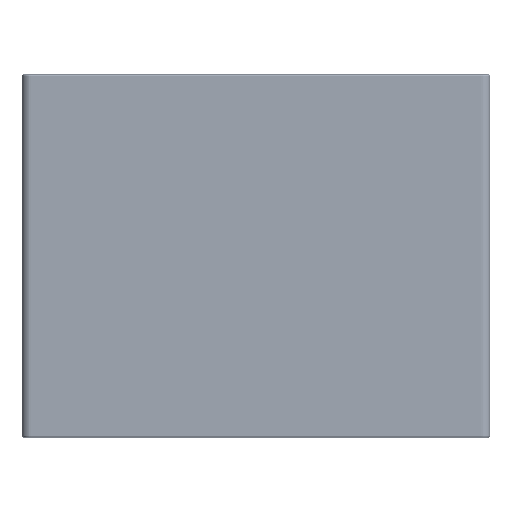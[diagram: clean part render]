
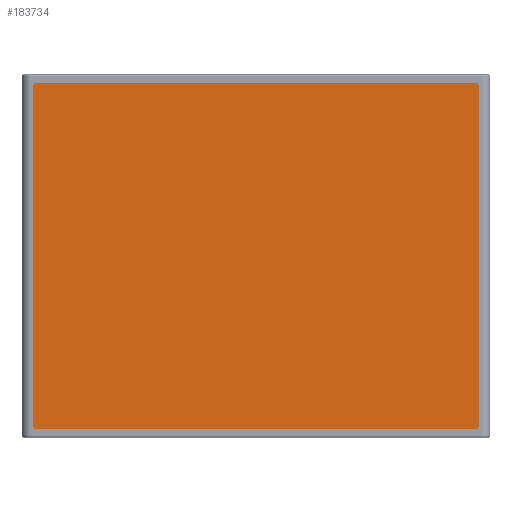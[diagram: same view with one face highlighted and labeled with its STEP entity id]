
A CAD part, front view. The second image highlights one B-rep face of the part: STEP entity #183734.
In plain terms, the highlighted planar face has unit normal (0, -1, 0).
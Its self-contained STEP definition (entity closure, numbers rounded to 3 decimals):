
#16349=DIRECTION('',(0.,0.,-1.));
#16350=VECTOR('',#16349,230.9);
#16351=CARTESIAN_POINT('',(-150.95,-1.71,115.45));
#16352=LINE('',#16351,#16350);
#16365=DIRECTION('',(-1.,0.,0.));
#16366=VECTOR('',#16365,297.9);
#16367=CARTESIAN_POINT('',(148.95,-1.71,117.45));
#16368=LINE('',#16367,#16366);
#16377=DIRECTION('',(0.,0.,1.));
#16378=VECTOR('',#16377,230.9);
#16379=CARTESIAN_POINT('',(150.95,-1.71,-115.45));
#16380=LINE('',#16379,#16378);
#16389=DIRECTION('',(1.,0.,0.));
#16390=VECTOR('',#16389,297.9);
#16391=CARTESIAN_POINT('',(-148.95,-1.71,-117.45));
#16392=LINE('',#16391,#16390);
#16397=CARTESIAN_POINT('',(-150.95,-1.71,115.45));
#16398=CARTESIAN_POINT('',(-150.95,-1.71,115.96));
#16399=CARTESIAN_POINT('',(-150.523,-1.71,117.023));
#16400=CARTESIAN_POINT('',(-149.46,-1.71,117.45));
#16401=CARTESIAN_POINT('',(-148.95,-1.71,117.45));
#16403=CARTESIAN_POINT('',(148.95,-1.71,117.45));
#16404=CARTESIAN_POINT('',(149.46,-1.71,117.45));
#16405=CARTESIAN_POINT('',(150.523,-1.71,117.023));
#16406=CARTESIAN_POINT('',(150.95,-1.71,115.96));
#16407=CARTESIAN_POINT('',(150.95,-1.71,115.45));
#16409=CARTESIAN_POINT('',(150.95,-1.71,-115.45));
#16410=CARTESIAN_POINT('',(150.95,-1.71,-115.96));
#16411=CARTESIAN_POINT('',(150.523,-1.71,-117.023));
#16412=CARTESIAN_POINT('',(149.46,-1.71,-117.45));
#16413=CARTESIAN_POINT('',(148.95,-1.71,-117.45));
#16415=CARTESIAN_POINT('',(-148.95,-1.71,-117.45));
#16416=CARTESIAN_POINT('',(-149.46,-1.71,-117.45));
#16417=CARTESIAN_POINT('',(-150.523,-1.71,-117.023));
#16418=CARTESIAN_POINT('',(-150.95,-1.71,-115.96));
#16419=CARTESIAN_POINT('',(-150.95,-1.71,-115.45));
#157658=CARTESIAN_POINT('',(-150.95,-1.71,115.45));
#157659=CARTESIAN_POINT('',(-150.95,-1.71,-115.45));
#157660=VERTEX_POINT('',#157658);
#157661=VERTEX_POINT('',#157659);
#157662=VERTEX_POINT('',#16401);
#157663=CARTESIAN_POINT('',(148.95,-1.71,117.45));
#157664=VERTEX_POINT('',#157663);
#157665=VERTEX_POINT('',#16407);
#157666=CARTESIAN_POINT('',(150.95,-1.71,-115.45));
#157667=VERTEX_POINT('',#157666);
#157668=VERTEX_POINT('',#16413);
#157669=CARTESIAN_POINT('',(-148.95,-1.71,-117.45));
#157670=VERTEX_POINT('',#157669);
#183719=CARTESIAN_POINT('',(0.,-1.71,0.));
#183720=DIRECTION('',(0.,1.,0.));
#183721=DIRECTION('',(1.,0.,0.));
#183722=AXIS2_PLACEMENT_3D('',#183719,#183720,#183721);
#183723=PLANE('',#183722);
#183724=ORIENTED_EDGE('',*,*,#183591,.F.);
#183725=ORIENTED_EDGE('',*,*,#183612,.T.);
#183726=ORIENTED_EDGE('',*,*,#183626,.F.);
#183727=ORIENTED_EDGE('',*,*,#183646,.T.);
#183728=ORIENTED_EDGE('',*,*,#183660,.F.);
#183729=ORIENTED_EDGE('',*,*,#183680,.T.);
#183730=ORIENTED_EDGE('',*,*,#183694,.F.);
#183731=ORIENTED_EDGE('',*,*,#183713,.T.);
#183732=EDGE_LOOP('',(#183724,#183725,#183726,#183727,#183728,#183729,#183730,
#183731));
#183733=FACE_OUTER_BOUND('',#183732,.F.);
#183734=ADVANCED_FACE('',(#183733),#183723,.F.);
#16402=B_SPLINE_CURVE_WITH_KNOTS('',3,(#16397,#16398,#16399,#16400,#16401),
.UNSPECIFIED.,.F.,.F.,(4,1,4),(0.,0.5,1.),.UNSPECIFIED.);
#16408=B_SPLINE_CURVE_WITH_KNOTS('',3,(#16403,#16404,#16405,#16406,#16407),
.UNSPECIFIED.,.F.,.F.,(4,1,4),(0.,0.5,1.),.UNSPECIFIED.);
#16414=B_SPLINE_CURVE_WITH_KNOTS('',3,(#16409,#16410,#16411,#16412,#16413),
.UNSPECIFIED.,.F.,.F.,(4,1,4),(0.,0.5,1.),.UNSPECIFIED.);
#16420=B_SPLINE_CURVE_WITH_KNOTS('',3,(#16415,#16416,#16417,#16418,#16419),
.UNSPECIFIED.,.F.,.F.,(4,1,4),(0.,0.5,1.),.UNSPECIFIED.);
#183591=EDGE_CURVE('',#157660,#157661,#16352,.T.);
#183612=EDGE_CURVE('',#157660,#157662,#16402,.T.);
#183626=EDGE_CURVE('',#157664,#157662,#16368,.T.);
#183646=EDGE_CURVE('',#157664,#157665,#16408,.T.);
#183660=EDGE_CURVE('',#157667,#157665,#16380,.T.);
#183680=EDGE_CURVE('',#157667,#157668,#16414,.T.);
#183694=EDGE_CURVE('',#157670,#157668,#16392,.T.);
#183713=EDGE_CURVE('',#157670,#157661,#16420,.T.);
